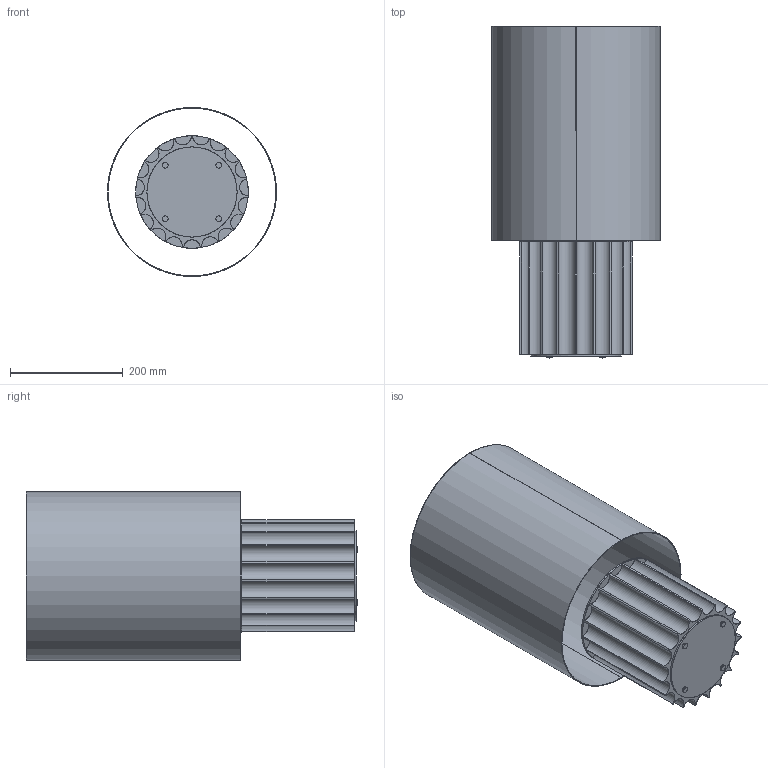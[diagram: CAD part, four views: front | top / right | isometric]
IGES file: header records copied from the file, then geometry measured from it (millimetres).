
Start section: SolidWorks IGES file using analytic representation for surfaces
Global section: file name: C:\Users\Agustin\Desktop\ARNOLD\2024 SEPTIEMBRE\2D\DENA\2D-3D NAC136\DENA_NAC136.IGS; native system: SolidWorks 2018; preprocessor: SolidWorks 2018; author: Agustin; date: 240918.092657; units: millimetre
Bounding box: 300 x 589.01 x 300 mm (x, y, z)
Surface area: 1140007.3 mm2 (no closed solid volume)
Topology: 0 solids, 0 shells, 89 faces, 1982 edges, 1982 vertices
Faces by surface type: revolution 69, bspline 20
